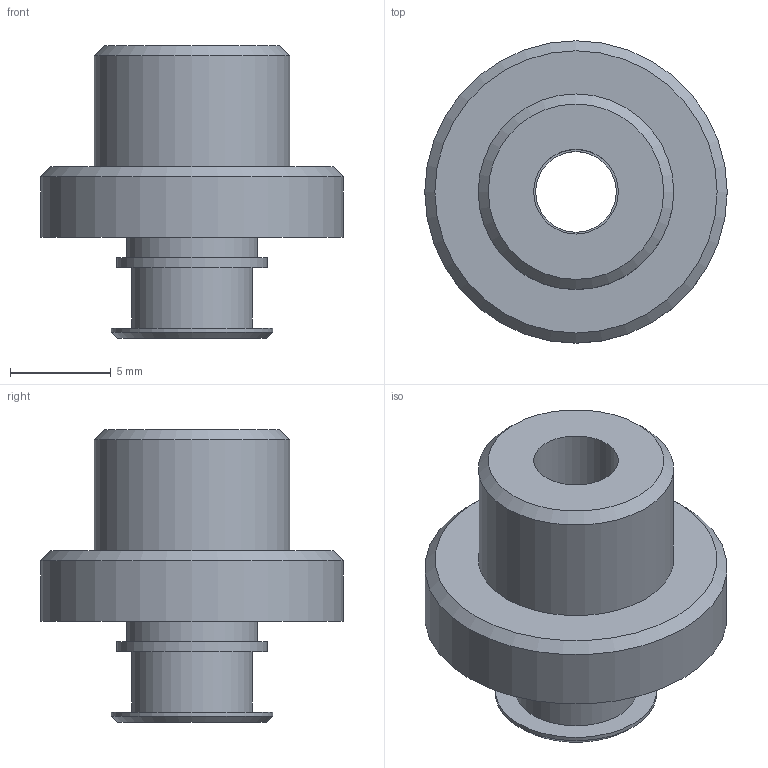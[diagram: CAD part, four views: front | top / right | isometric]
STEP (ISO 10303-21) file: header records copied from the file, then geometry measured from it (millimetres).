
FILE_DESCRIPTION(('STEP AP214'),'1');
FILE_NAME('CA.08.09.031.stp','2022-09-02T13:23:41',(' '),(' '),'Spatial InterOp 3D',' ',' ');
FILE_SCHEMA(('AUTOMOTIVE_DESIGN { 1 0 10303 214 1 1 1 1 }'));
Length unit declared in the file: millimetre
Products named in the file (1): CA.08.09.031
Bounding box: 15 x 15 x 14.5 mm (x, y, z)
Volume: 980.7 mm3; surface area: 1021.8 mm2
Topology: 1 solids, 1 shells, 21 faces, 35 edges, 23 vertices
Faces by surface type: cylinder 9, plane 9, cone 3
Full cylindrical faces by diameter (mm): 4 x1, 4.2 x1, 5 x1, 6 x1, 6.5 x1, 7.5 x1, 8 x1, 9.7 x1, 15 x1
Entity records: 638 total; most frequent: DIRECTION 86, CARTESIAN_POINT 64, AXIS2_PLACEMENT_3D 43, EDGE_LOOP 42, ORIENTED_EDGE 42, FACE_OUTER_BOUND 30, STYLED_ITEM 22, PRESENTATION_STYLE_ASSIGNMENT 22
